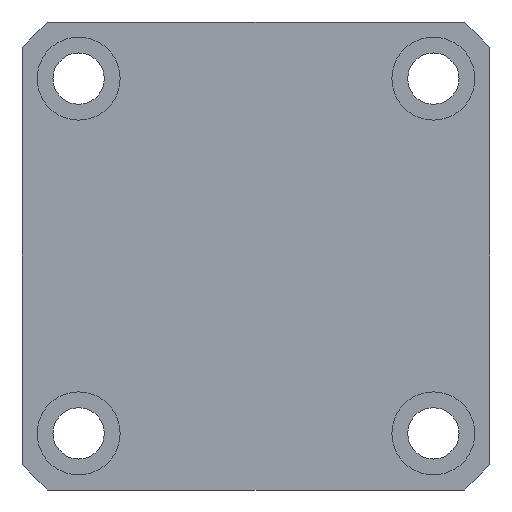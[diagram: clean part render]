
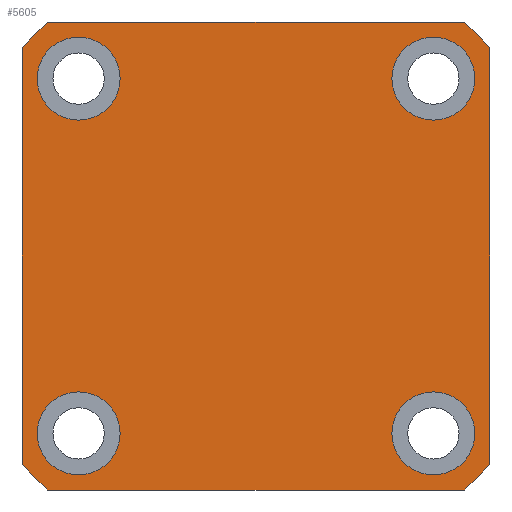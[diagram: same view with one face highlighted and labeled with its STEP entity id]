
A CAD part, left-side view. The second image highlights one B-rep face of the part: STEP entity #5605.
In plain terms, the highlighted planar face has unit normal (-1, 0, 0).
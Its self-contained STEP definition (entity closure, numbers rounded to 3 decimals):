
#3038=FACE_BOUND('',#6766,.T.);
#3039=FACE_BOUND('',#6767,.T.);
#3040=FACE_BOUND('',#6768,.T.);
#3041=FACE_BOUND('',#6769,.T.);
#3042=FACE_BOUND('',#6770,.T.);
#3225=LINE('',#20304,#4149);
#3233=LINE('',#21123,#4157);
#3235=LINE('',#21129,#4159);
#3236=LINE('',#21133,#4160);
#4149=VECTOR('',#14293,1.);
#4157=VECTOR('',#14479,1.);
#4159=VECTOR('',#14485,1.);
#4160=VECTOR('',#14488,1.);
#5168=PLANE('',#13767);
#5605=ADVANCED_FACE('',(#3038,#3039,#3040,#3041,#3042),#5168,.F.);
#6766=EDGE_LOOP('',(#7788,#7789,#7790,#7791,#7792,#7793,#7794,#7795));
#6767=EDGE_LOOP('',(#7796));
#6768=EDGE_LOOP('',(#7797));
#6769=EDGE_LOOP('',(#7798));
#6770=EDGE_LOOP('',(#7799));
#7369=CIRCLE('',#13674,5.5);
#7371=CIRCLE('',#13677,5.5);
#7373=CIRCLE('',#13680,5.5);
#7375=CIRCLE('',#13683,5.5);
#7420=CIRCLE('',#13763,41.5);
#7421=CIRCLE('',#13764,41.5);
#7422=CIRCLE('',#13765,41.5);
#7423=CIRCLE('',#13766,41.5);
#7788=ORIENTED_EDGE('',*,*,#11762,.F.);
#7789=ORIENTED_EDGE('',*,*,#11763,.F.);
#7790=ORIENTED_EDGE('',*,*,#11764,.F.);
#7791=ORIENTED_EDGE('',*,*,#11765,.F.);
#7792=ORIENTED_EDGE('',*,*,#11766,.F.);
#7793=ORIENTED_EDGE('',*,*,#11660,.F.);
#7794=ORIENTED_EDGE('',*,*,#11767,.F.);
#7795=ORIENTED_EDGE('',*,*,#11760,.F.);
#7796=ORIENTED_EDGE('',*,*,#11662,.F.);
#7797=ORIENTED_EDGE('',*,*,#11664,.F.);
#7798=ORIENTED_EDGE('',*,*,#11666,.F.);
#7799=ORIENTED_EDGE('',*,*,#11668,.F.);
#10580=VERTEX_POINT('',#20303);
#10581=VERTEX_POINT('',#20305);
#10582=VERTEX_POINT('',#20309);
#10584=VERTEX_POINT('',#20314);
#10586=VERTEX_POINT('',#20319);
#10588=VERTEX_POINT('',#20324);
#10668=VERTEX_POINT('',#21122);
#10669=VERTEX_POINT('',#21124);
#10670=VERTEX_POINT('',#21128);
#10671=VERTEX_POINT('',#21130);
#10672=VERTEX_POINT('',#21132);
#10673=VERTEX_POINT('',#21134);
#11660=EDGE_CURVE('',#10580,#10581,#3225,.T.);
#11662=EDGE_CURVE('',#10582,#10582,#7369,.T.);
#11664=EDGE_CURVE('',#10584,#10584,#7371,.T.);
#11666=EDGE_CURVE('',#10586,#10586,#7373,.T.);
#11668=EDGE_CURVE('',#10588,#10588,#7375,.T.);
#11760=EDGE_CURVE('',#10668,#10669,#3233,.T.);
#11762=EDGE_CURVE('',#10670,#10668,#7420,.T.);
#11763=EDGE_CURVE('',#10671,#10670,#3235,.T.);
#11764=EDGE_CURVE('',#10672,#10671,#7421,.T.);
#11765=EDGE_CURVE('',#10673,#10672,#3236,.T.);
#11766=EDGE_CURVE('',#10581,#10673,#7422,.T.);
#11767=EDGE_CURVE('',#10669,#10580,#7423,.T.);
#13674=AXIS2_PLACEMENT_3D('',#20308,#14297,#14298);
#13677=AXIS2_PLACEMENT_3D('',#20313,#14303,#14304);
#13680=AXIS2_PLACEMENT_3D('',#20318,#14309,#14310);
#13683=AXIS2_PLACEMENT_3D('',#20323,#14315,#14316);
#13763=AXIS2_PLACEMENT_3D('',#21127,#14483,#14484);
#13764=AXIS2_PLACEMENT_3D('',#21131,#14486,#14487);
#13765=AXIS2_PLACEMENT_3D('',#21135,#14489,#14490);
#13766=AXIS2_PLACEMENT_3D('',#21136,#14491,#14492);
#13767=AXIS2_PLACEMENT_3D('',#21137,#14493,#14494);
#14293=DIRECTION('',(0.,1.,0.));
#14297=DIRECTION('',(-1.,0.,0.));
#14298=DIRECTION('',(0.,0.,1.));
#14303=DIRECTION('',(-1.,0.,0.));
#14304=DIRECTION('',(0.,0.,1.));
#14309=DIRECTION('',(-1.,0.,0.));
#14310=DIRECTION('',(0.,0.,1.));
#14315=DIRECTION('',(-1.,0.,0.));
#14316=DIRECTION('',(0.,0.,1.));
#14479=DIRECTION('',(0.,0.,-1.));
#14483=DIRECTION('',(1.,0.,0.));
#14484=DIRECTION('',(0.,0.,-1.));
#14485=DIRECTION('',(0.,-1.,0.));
#14486=DIRECTION('',(1.,0.,0.));
#14487=DIRECTION('',(0.,0.,-1.));
#14488=DIRECTION('',(0.,0.,1.));
#14489=DIRECTION('',(1.,0.,0.));
#14490=DIRECTION('',(0.,0.,-1.));
#14491=DIRECTION('',(1.,0.,0.));
#14492=DIRECTION('',(0.,0.,-1.));
#14493=DIRECTION('',(1.,0.,0.));
#14494=DIRECTION('',(0.,0.,1.));
#20303=CARTESIAN_POINT('',(0.,-27.591,-31.));
#20304=CARTESIAN_POINT('',(0.,0.,-31.));
#20305=CARTESIAN_POINT('',(0.,27.591,-31.));
#20308=CARTESIAN_POINT('',(0.,-23.5,-23.5));
#20309=CARTESIAN_POINT('',(0.,-23.5,-18.));
#20313=CARTESIAN_POINT('',(0.,-23.5,23.5));
#20314=CARTESIAN_POINT('',(0.,-23.5,29.));
#20318=CARTESIAN_POINT('',(0.,23.5,23.5));
#20319=CARTESIAN_POINT('',(0.,23.5,29.));
#20323=CARTESIAN_POINT('',(0.,23.5,-23.5));
#20324=CARTESIAN_POINT('',(0.,23.5,-18.));
#21122=CARTESIAN_POINT('',(0.,-31.,27.591));
#21123=CARTESIAN_POINT('',(0.,-31.,25.));
#21124=CARTESIAN_POINT('',(0.,-31.,-27.591));
#21127=CARTESIAN_POINT('',(0.,0.,0.));
#21128=CARTESIAN_POINT('',(0.,-27.591,31.));
#21129=CARTESIAN_POINT('',(0.,0.,31.));
#21130=CARTESIAN_POINT('',(0.,27.591,31.));
#21131=CARTESIAN_POINT('',(0.,0.,0.));
#21132=CARTESIAN_POINT('',(0.,31.,27.591));
#21133=CARTESIAN_POINT('',(0.,31.,0.));
#21134=CARTESIAN_POINT('',(0.,31.,-27.591));
#21135=CARTESIAN_POINT('',(0.,0.,0.));
#21136=CARTESIAN_POINT('',(0.,0.,0.));
#21137=CARTESIAN_POINT('',(0.,0.,0.));
